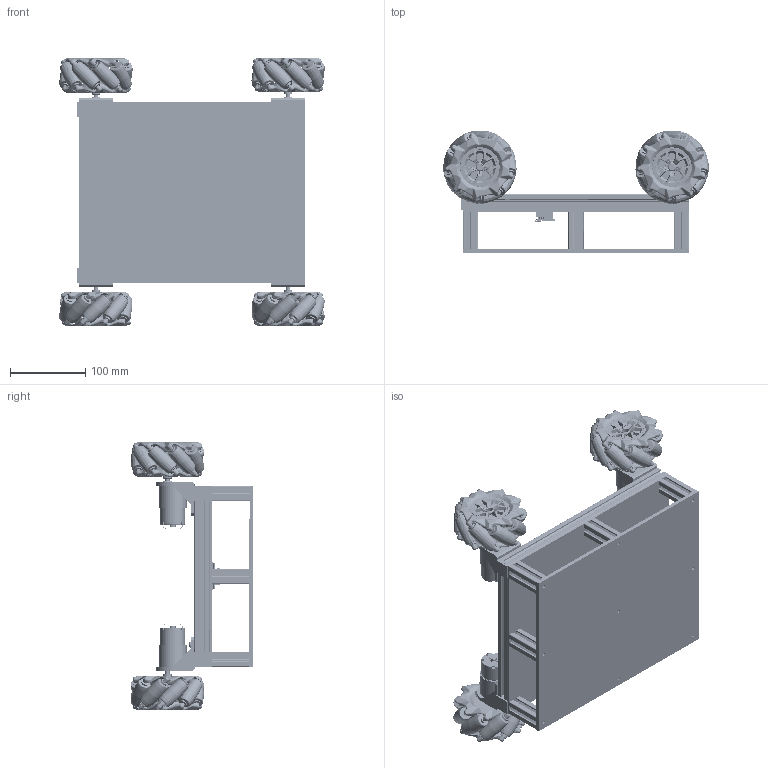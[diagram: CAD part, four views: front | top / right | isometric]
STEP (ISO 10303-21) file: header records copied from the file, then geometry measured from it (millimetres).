
FILE_DESCRIPTION(/* description */ (''),/* implementation_level */ '2;1');
FILE_NAME(/* name */ 'Assieme_drone_mecanum_96mm.stp',/* time_stamp */ '2025-05-25T20:18:15+02:00',/* author */ ('R5800u'),/* organization */ (''),/* preprocessor_version */ 'ST-DEVELOPER v20',/* originating_system */ 'Autodesk Inventor 2025',/* authorisation */ '');
FILE_SCHEMA (('AUTOMOTIVE_DESIGN { 1 0 10303 214 3 1 1 }'));
Products named in the file (90): Assieme_drone2; tslot-20x20-1; tslot-20x20-1_MIR; tslot-20x20-2; SNSD20x20_MIR; SNSD20x20; pianale1; pianale2; pianale_superiore; tslot-20x20-3; Assembly; pcb; JST - PH - SMD (R) - 2Pin - 2.00mm; pinheaderyellow; COMPOUND; COMPOUND_1; COMPOUND_2; COMPOUND_3; COMPOUND_4; COMPOUND_5; COMPOUND_6; COMPOUND_7; COMPOUND_8; COMPOUND_9; COMPOUND_10; COMPOUND_11; COMPOUND_12; COMPOUND_13; COMPOUND_14; COMPOUND_15; COMPOUND_16; COMPOUND_17; pinheader8Red; COMPOUND_18; COMPOUND_19; COMPOUND_20; COMPOUND_21; COMPOUND_22; COMPOUND_23; COMPOUND_24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
Assembly tree (119 placements, depth 5):
  Assieme_drone2
    tslot-20x20-1
    tslot-20x20-1_MIR
    tslot-20x20-2  x3
    SNSD20x20  x3
    SNSD20x20_MIR  x3
    pianale1
    pianale2
    pianale_superiore
    tslot-20x20-3  x12
    Assembly
      pcb
      pinheaderyellow  x2
        COMPOUND
          COMPOUND_1
          COMPOUND_2
          COMPOUND_3
          COMPOUND_4
          COMPOUND_5
          COMPOUND_6
          COMPOUND_7
          COMPOUND_8
        COMPOUND_9
          COMPOUND_10
          COMPOUND_11
          COMPOUND_12
          COMPOUND_13
          COMPOUND_14
          COMPOUND_15
          COMPOUND_16
          COMPOUND_17
      pinheader8Red  x2
        COMPOUND_18
          COMPOUND_19
          COMPOUND_20
          COMPOUND_21
          COMPOUND_22
          COMPOUND_23
          COMPOUND_24
          COMPOUND_25
          COMPOUND_26
        COMPOUND_27
          COMPOUND_28
          COMPOUND_29
          COMPOUND_30
          COMPOUND_31
          COMPOUND_32
          COMPOUND_33
          COMPOUND_34
          COMPOUND_35
      pinheader8Black  x2
        COMPOUND_36
          COMPOUND_37
          COMPOUND_38
          COMPOUND_39
          COMPOUND_40
          COMPOUND_41
          COMPOUND_42
          COMPOUND_43
          COMPOUND_44
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Bounding box: 352.4 x 162.85 x 356.5 mm (x, y, z)
Volume: 1589084.5 mm3; surface area: 1046447.4 mm2
Topology: 202 solids, 286 shells, 16560 faces, 42307 edges, 25567 vertices
Faces by surface type: plane 8572, cylinder 3360, bspline 3080, sphere 679, torus 591, cone 278
Full cylindrical faces by diameter (mm): 0.6 x2, 0.7 x64, 1.35 x20, 1.6 x12, 2 x12, 2.1 x2, 2.459 x8, 2.5 x24, 2.6 x12, 3.5 x24, 3.571 x3, 3.75 x20, 4 x17, 4.2 x29, 4.3 x9, 4.5 x4, 5.15 x20, 5.25 x72, 5.3 x24, 5.75 x144, 6 x20, 7.5 x44, 7.9 x8, 9 x72, 10.55 x72, 11 x4, 12 x4, 12.5 x4, 20 x8, 32 x8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
Entity records: 400302 total; most frequent: CARTESIAN_POINT 191066, ORIENTED_EDGE 43516, DIRECTION 40394, EDGE_CURVE 21870, AXIS2_PLACEMENT_3D 14525, VERTEX_POINT 13505, LINE 11344, VECTOR 11344
